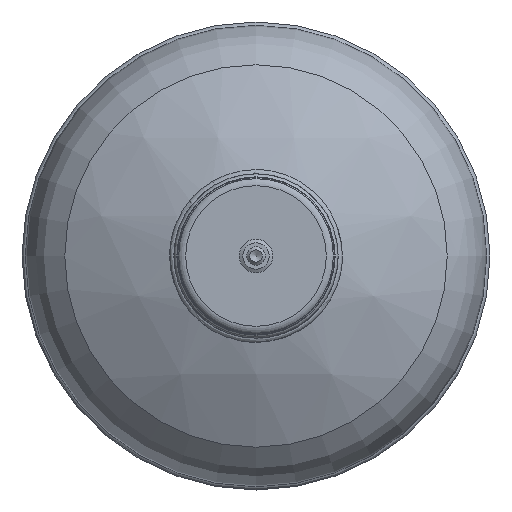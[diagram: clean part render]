
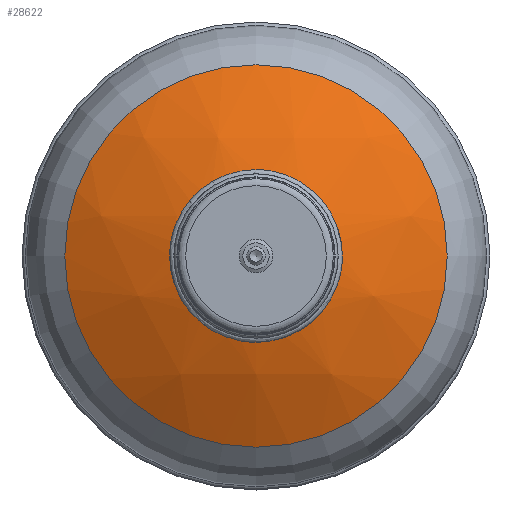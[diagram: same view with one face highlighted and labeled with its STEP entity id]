
A CAD part, front view. The second image highlights one B-rep face of the part: STEP entity #28622.
In plain terms, the highlighted spherical face has radius 244 mm.
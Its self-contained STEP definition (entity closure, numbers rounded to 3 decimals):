
#50=SPHERICAL_SURFACE('',#30540,244.);
#1023=FACE_BOUND('',#9290,.T.);
#7459=FACE_OUTER_BOUND('',#9289,.T.);
#9289=EDGE_LOOP('',(#26949));
#9290=EDGE_LOOP('',(#26950));
#11293=CIRCLE('',#30212,56.34);
#11432=CIRCLE('',#30539,125.194);
#13853=VERTEX_POINT('',#57787);
#14287=VERTEX_POINT('',#62071);
#17910=EDGE_CURVE('',#13853,#13853,#11293,.T.);
#18518=EDGE_CURVE('',#14287,#14287,#11432,.T.);
#26949=ORIENTED_EDGE('',*,*,#18518,.F.);
#26950=ORIENTED_EDGE('',*,*,#17910,.T.);
#28622=ADVANCED_FACE('',(#7459,#1023),#50,.T.);
#30212=AXIS2_PLACEMENT_3D('',#57788,#35339,#35340);
#30539=AXIS2_PLACEMENT_3D('',#62072,#36253,#36254);
#30540=AXIS2_PLACEMENT_3D('',#62073,#36255,#36256);
#35339=DIRECTION('center_axis',(0.,1.,0.));
#35340=DIRECTION('ref_axis',(0.,0.,-1.));
#36253=DIRECTION('center_axis',(0.,1.,0.));
#36254=DIRECTION('ref_axis',(1.,0.,0.));
#36255=DIRECTION('center_axis',(0.,0.,
1.));
#36256=DIRECTION('ref_axis',(-1.,0.,0.));
#57787=CARTESIAN_POINT('',(56.34,-153.606,0.));
#57788=CARTESIAN_POINT('Origin',(0.,-153.606,0.));
#62071=CARTESIAN_POINT('',(125.194,-125.634,0.));
#62072=CARTESIAN_POINT('Origin',(0.,-125.634,
0.));
#62073=CARTESIAN_POINT('Origin',(0.,83.8,0.));
